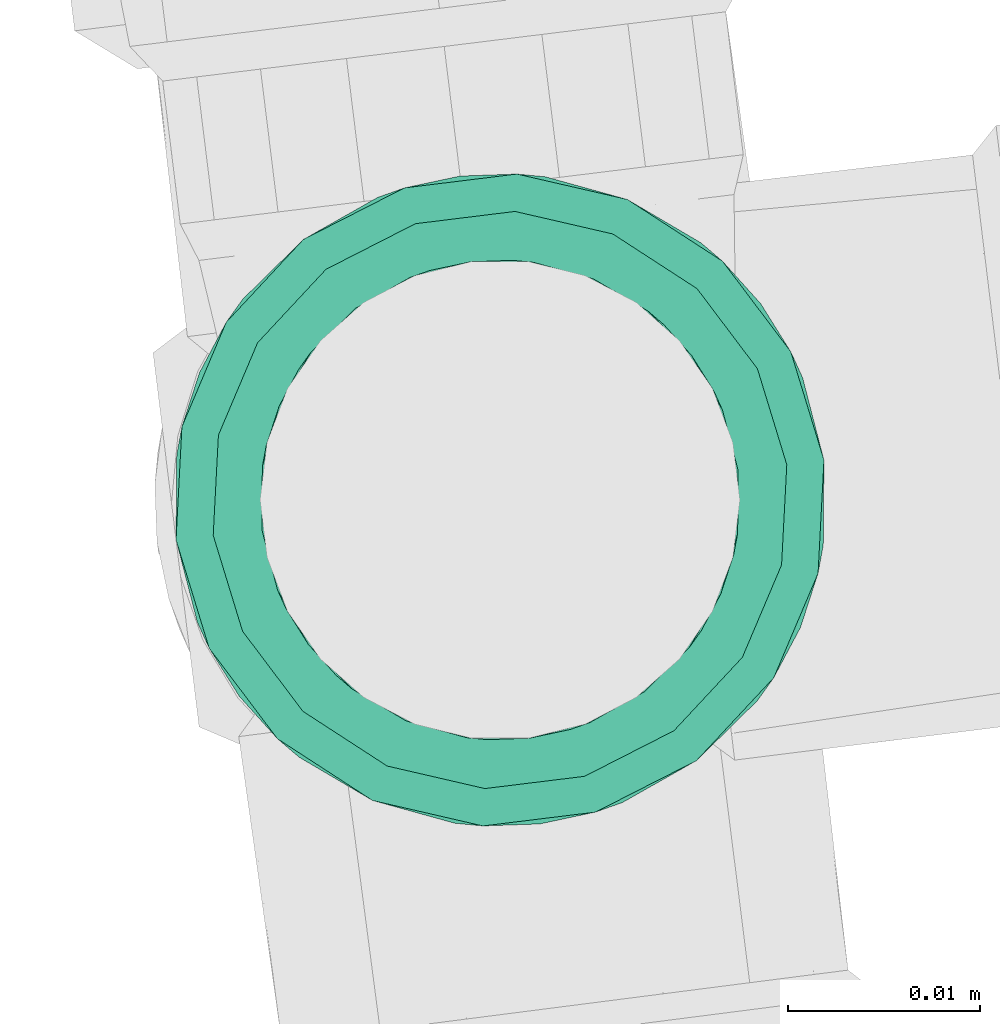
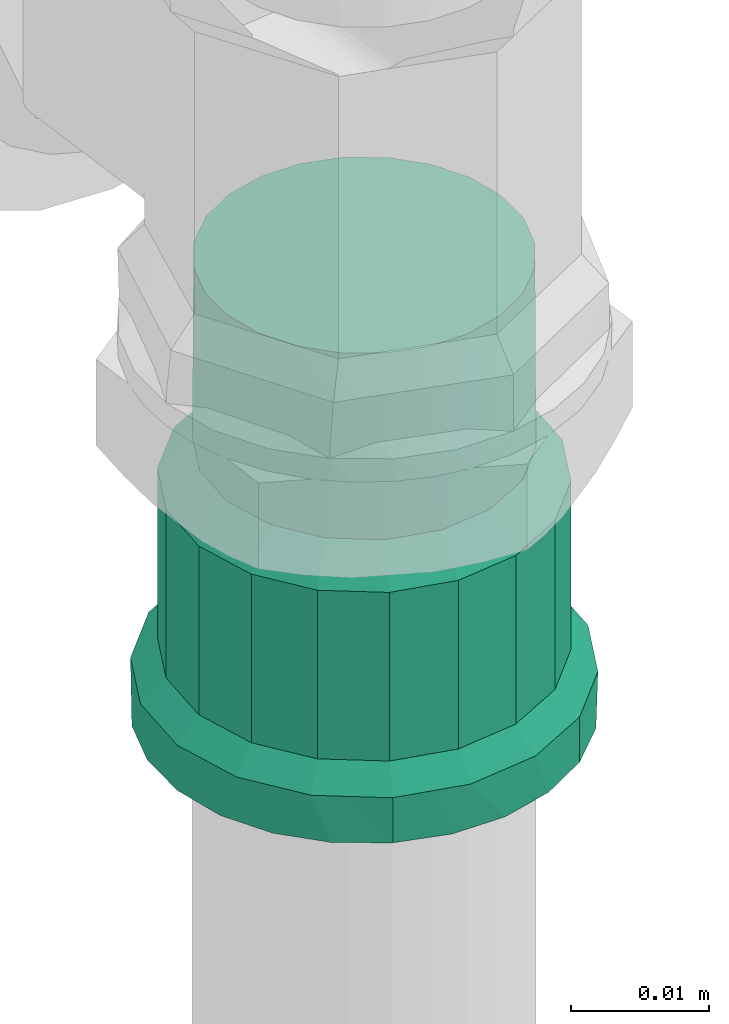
# One storey, part 63 of 97: 1 flow fitting.
"""IFC2X3 building model written with IfcOpenShell, lengths in centimetres."""

from ifc_helpers import new_model, entity, si_unit, converted_unit, derived_unit, direction, frame, origin, place, context, subcontext, project, spatial, faceted_brep, source, transform, mapped, material, type_object, type_shapes, element, save


model = new_model("IFC2X3")

# Units and contexts
model_context = context("Model", 3, precision=0.001, world=origin(), true_north=direction((6.12303176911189e-17, 1.0)))
body_context = subcontext(model_context, "Body", "Model", "MODEL_VIEW")
ifc_project = project(units=[si_unit("LENGTHUNIT", "METRE", prefix="CENTI"), si_unit("AREAUNIT", "SQUARE_METRE"), si_unit("VOLUMEUNIT", "CUBIC_METRE"), converted_unit("PLANEANGLEUNIT", "DEGREE", entity("IfcRatioMeasure", 0.0174532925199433), si_unit("PLANEANGLEUNIT", "RADIAN"), dimensions=[0, 0, 0, 0, 0, 0, 0]), si_unit("MASSUNIT", "GRAM", prefix="KILO"), derived_unit("MASSDENSITYUNIT", [(si_unit("MASSUNIT", "GRAM", prefix="KILO"), 1), (si_unit("LENGTHUNIT", "METRE"), -3)]), derived_unit("MOMENTOFINERTIAUNIT", [(si_unit("LENGTHUNIT", "METRE"), 4)]), si_unit("TIMEUNIT", "SECOND"), si_unit("FREQUENCYUNIT", "HERTZ"), si_unit("THERMODYNAMICTEMPERATUREUNIT", "DEGREE_CELSIUS"), derived_unit("THERMALTRANSMITTANCEUNIT", [(si_unit("MASSUNIT", "GRAM", prefix="KILO"), 1), (si_unit("THERMODYNAMICTEMPERATUREUNIT", "KELVIN"), -1), (si_unit("TIMEUNIT", "SECOND"), -3)]), derived_unit("VOLUMETRICFLOWRATEUNIT", [(si_unit("LENGTHUNIT", "METRE"), 3), (si_unit("TIMEUNIT", "SECOND"), -1)]), si_unit("ELECTRICCURRENTUNIT", "AMPERE"), si_unit("ELECTRICVOLTAGEUNIT", "VOLT"), si_unit("POWERUNIT", "WATT"), si_unit("FORCEUNIT", "NEWTON", prefix="KILO"), si_unit("ILLUMINANCEUNIT", "LUX"), si_unit("LUMINOUSFLUXUNIT", "LUMEN"), si_unit("LUMINOUSINTENSITYUNIT", "CANDELA"), derived_unit("USERDEFINED", [(si_unit("MASSUNIT", "GRAM", prefix="KILO"), -1), (si_unit("LENGTHUNIT", "METRE"), -2), (si_unit("TIMEUNIT", "SECOND"), 3), (si_unit("LUMINOUSFLUXUNIT", "LUMEN"), 1)]), derived_unit("LINEARVELOCITYUNIT", [(si_unit("LENGTHUNIT", "METRE"), 1), (si_unit("TIMEUNIT", "SECOND"), -1)]), si_unit("PRESSUREUNIT", "PASCAL"), derived_unit("USERDEFINED", [(si_unit("LENGTHUNIT", "METRE"), -2), (si_unit("MASSUNIT", "GRAM", prefix="KILO"), 1), (si_unit("TIMEUNIT", "SECOND"), -2)]), derived_unit("LINEARFORCEUNIT", [(si_unit("MASSUNIT", "GRAM", prefix="KILO"), 1), (si_unit("LENGTHUNIT", "METRE"), 1), (si_unit("TIMEUNIT", "SECOND"), -2), (si_unit("LENGTHUNIT", "METRE"), -1)]), derived_unit("PLANARFORCEUNIT", [(si_unit("MASSUNIT", "GRAM", prefix="KILO"), 1), (si_unit("LENGTHUNIT", "METRE"), 1), (si_unit("TIMEUNIT", "SECOND"), -2), (si_unit("LENGTHUNIT", "METRE"), -2)])], contexts=[model_context])

# Site, building, storey
site_placement = place(None, origin())
site = spatial("IfcSite", under=ifc_project, at=site_placement, Name="Default", CompositionType="ELEMENT")
building_placement = place(site_placement, origin())
building = spatial("IfcBuilding", under=site, at=building_placement, Name="HIDROSSANITÁRIO", CompositionType="ELEMENT")
storey_placement = place(building_placement, frame((0.0, 0.0, -260.0)))
storey = spatial("IfcBuildingStorey", under=building, at=storey_placement, Name="TÉRREO-HID", CompositionType="ELEMENT", Elevation=-260.0)

# Flow fitting
ifc_material = material(Name="PVC Marrom")
pipe_fitting_type = type_object("IfcPipeFittingType", Name="PVC Marrom Soldável_Adaptador Curto com Bolsa e Rosca Aninhado:Adaptador", PredefinedType="NOTDEFINED", material=ifc_material)
shared_shape = source(origin(), body_context, "Body", "Brep", [
    faceted_brep([(0.0, -0.850000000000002, -1.47224318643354), (0.0, -1.20208152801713, -1.20208152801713), (0.0, -0.624999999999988, -1.08253175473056), (0.0, -0.323523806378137, -1.20740728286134), (0.0, -0.439992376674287, -1.64207390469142), (0.0, -0.883883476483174, -0.883883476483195), (0.0, -1.47224318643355, -0.849999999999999), (0.0, -1.08253175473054, -0.625000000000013), (0.0, -1.20740728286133, -0.323523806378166), (0.0, -1.64207390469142, -0.439992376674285), (0.0, -1.25, 0.0), (0.0, -1.7, 0.0), (0.0, -1.20740728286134, 0.323523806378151), (0.0, -1.64207390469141, 0.439992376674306), (0.0, -1.08253175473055, 0.625), (0.0, -1.47224318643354, 0.850000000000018), (0.0, -0.883883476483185, 0.883883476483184), (0.0, -1.20208152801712, 1.20208152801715), (0.0, -0.625000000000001, 1.08253175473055), (0.0, -0.849999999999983, 1.47224318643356), (0.0, -0.323523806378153, 1.20740728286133), (0.0, -0.439992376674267, 1.64207390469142), (0.0, 0.0, 1.25), (0.0, 0.0, 1.7), (0.0, 0.323523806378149, 1.20740728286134), (0.0, 0.439992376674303, 1.64207390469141), (0.0, 0.624999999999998, 1.08253175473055), (0.0, 0.850000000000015, 1.47224318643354), (0.0, 0.883883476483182, 0.883883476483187), (0.0, 1.20208152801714, 1.20208152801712), (0.0, 1.08253175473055, 0.625000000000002), (0.0, 1.47224318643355, 0.849999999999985), (0.0, 1.64207390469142, 0.439992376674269), (0.0, 1.20740728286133, 0.323523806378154), (0.0, 1.7, 0.0), (0.0, 1.25, 0.0), (0.0, 1.64207390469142, -0.43999237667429), (0.0, 1.20740728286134, -0.323523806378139), (0.0, 1.47224318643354, -0.850000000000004), (0.0, 1.08253175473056, -0.624999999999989), (0.0, 1.20208152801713, -1.20208152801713), (0.0, 0.883883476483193, -0.883883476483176), (0.0, 0.849999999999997, -1.47224318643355), (0.0, 0.625000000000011, -1.08253175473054), (0.0, 0.439992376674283, -1.64207390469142), (0.0, 0.323523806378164, -1.20740728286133), (0.0, 0.0, -1.7), (0.0, 0.0, -1.25), (0.399999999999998, 1.59746124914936, 0.581478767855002), (0.399999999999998, 1.64873062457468, 0.290739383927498), (0.399999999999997, 1.07604576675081, 1.28256289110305), (0.399999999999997, 1.30221463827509, 1.09281152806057), (0.399999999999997, 1.44983794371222, 0.837145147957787), (0.399999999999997, 0.57244607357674, 1.57326016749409), (0.399999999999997, 0.295015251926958, 1.67420608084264), (0.399999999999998, 1.659968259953, 0.227012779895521), (0.399999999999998, 1.7, 0.0), (0.399999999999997, 0.849876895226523, 1.47231425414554), (0.399999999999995, -0.850246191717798, 1.47210102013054), (0.399999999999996, -0.572840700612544, 1.57311652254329), (0.399999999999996, -0.295435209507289, 1.67413202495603), (0.399999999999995, -1.30248872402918, 1.09248483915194), (0.399999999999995, -1.07636745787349, 1.28229292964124), (0.399999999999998, -1.7, 0.0), (0.399999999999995, -1.5976070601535, 0.581078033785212), (0.399999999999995, -1.45004789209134, 0.836781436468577), (0.399999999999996, -0.000209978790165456, 1.67416905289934), (0.400000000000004, -1.59760706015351, -0.581078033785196), (0.400000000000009, -1.0763674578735, -1.28229292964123), (0.400000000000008, -1.30248872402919, -1.09248483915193), (0.400000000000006, -1.45004789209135, -0.836781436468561), (0.40000000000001, -0.572840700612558, -1.57311652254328), (0.400000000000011, -0.295435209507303, -1.67413202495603), (0.40000000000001, -0.850246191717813, -1.47210102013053), (0.4, 1.64873062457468, -0.290739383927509), (0.400000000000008, 0.849876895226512, -1.47231425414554), (0.400000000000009, 0.572446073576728, -1.57326016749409), (0.40000000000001, 0.295015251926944, -1.67420608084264), (0.400000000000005, 1.30221463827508, -1.09281152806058), (0.400000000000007, 1.0760457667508, -1.28256289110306), (0.400000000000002, 1.59746124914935, -0.581478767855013), (0.400000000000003, 1.44983794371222, -0.837145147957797), (0.40000000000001, -0.000209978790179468, -1.67416905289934), (0.399999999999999, 1.65996825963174, -0.227012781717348), (2.085, 1.45359735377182, 0.29149513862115), (2.085, 1.45961152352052, 0.257389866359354), (2.085, 1.505, 0.0), (0.590000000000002, 1.505, 0.0), (0.590000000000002, 1.45961152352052, 0.257389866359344), (0.590000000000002, 1.41422304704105, 0.514779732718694), (2.085, 1.41422304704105, 0.514779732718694), (2.08499999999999, 0.952616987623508, 1.13544538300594), (2.08499999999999, 1.15284295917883, 0.967459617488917), (0.590000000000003, 1.15284295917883, 0.967459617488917), (0.590000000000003, 0.952616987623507, 1.13544538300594), (0.590000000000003, 0.752391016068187, 1.30343114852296), (2.08499999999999, 0.752391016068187, 1.30343114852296), (2.085, 1.28353300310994, 0.741119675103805), (0.590000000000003, 1.28353300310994, 0.741119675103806), (2.08499999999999, 0.261175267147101, 1.48216479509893), (2.08499999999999, 0.506783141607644, 1.39279797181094), (0.590000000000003, 0.506783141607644, 1.39279797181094), (0.590000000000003, 0.261175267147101, 1.48216479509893), (2.08499999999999, -0.261547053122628, 1.48209923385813), (2.08499999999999, -0.000185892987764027, 1.48213201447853), (0.590000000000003, -0.000185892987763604, 1.48213201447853), (0.590000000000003, -0.261547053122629, 1.48209923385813), (2.08499999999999, -0.507132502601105, 1.39267080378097), (0.590000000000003, -0.507132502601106, 1.39267080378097), (0.590000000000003, -0.752717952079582, 1.3032423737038), (2.08499999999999, -0.75271795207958, 1.3032423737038), (0.590000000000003, -0.952901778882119, 1.1352063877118), (0.590000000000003, -1.15308560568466, 0.967170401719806), (2.08499999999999, -1.15308560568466, 0.967170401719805), (2.08499999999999, -0.952901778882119, 1.1352063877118), (2.085, -1.28371886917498, 0.740797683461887), (0.590000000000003, -1.28371886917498, 0.740797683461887), (0.590000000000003, -1.4143521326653, 0.514424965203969), (2.085, -1.4143521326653, 0.514424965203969), (0.590000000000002, -1.505, 0.0), (2.085, -1.505, 0.0), (2.08500000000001, -1.41435213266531, -0.514424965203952), (0.590000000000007, -1.41435213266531, -0.514424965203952), (2.08500000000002, -0.752717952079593, -1.3032423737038), (2.08500000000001, -0.95290177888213, -1.13520638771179), (2.08500000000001, -1.15308560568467, -0.967170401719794), (0.59000000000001, -1.15308560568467, -0.967170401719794), (0.590000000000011, -0.95290177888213, -1.13520638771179), (0.590000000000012, -0.752717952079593, -1.3032423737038), (0.590000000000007, 1.28353300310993, -0.741119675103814), (0.590000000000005, 1.41422304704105, -0.514779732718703), (2.08500000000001, 1.41422304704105, -0.514779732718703), (2.08500000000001, 1.28353300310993, -0.741119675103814), (2.08500000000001, 1.15284295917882, -0.967459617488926), (0.590000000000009, 1.15284295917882, -0.967459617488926), (0.590000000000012, 0.506783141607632, -1.39279797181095), (0.590000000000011, 0.752391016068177, -1.30343114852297), (2.08500000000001, 0.752391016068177, -1.30343114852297), (2.08500000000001, 0.506783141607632, -1.39279797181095), (2.08500000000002, 0.261175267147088, -1.48216479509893), (0.590000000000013, 0.261175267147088, -1.48216479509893), (2.08500000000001, -1.28371886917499, -0.740797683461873), (0.590000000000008, -1.28371886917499, -0.740797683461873), (2.08500000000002, -0.261547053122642, -1.48209923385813), (2.08500000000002, -0.507132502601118, -1.39267080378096), (0.590000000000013, -0.507132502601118, -1.39267080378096), (0.590000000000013, -0.261547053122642, -1.48209923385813), (0.590000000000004, 1.45961152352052, -0.257389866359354), (2.085, 1.46677519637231, -0.216765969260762), (2.085, 1.45359734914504, -0.291495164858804), (0.59000000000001, 0.952616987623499, -1.13544538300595), (2.08500000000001, 0.952616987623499, -1.13544538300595), (2.08500000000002, -0.000185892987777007, -1.48213201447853), (0.590000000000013, -0.000185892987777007, -1.48213201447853), (4.03, 0.0, -1.25), (4.03, 0.323523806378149, -1.20740728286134), (4.03, 0.624999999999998, -1.08253175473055), (4.03, 0.883883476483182, -0.883883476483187), (4.03, 1.08253175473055, -0.625000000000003), (4.03, 1.20740728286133, -0.323523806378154), (4.03, 1.25, 0.0), (4.03, 1.20740728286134, 0.323523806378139), (4.03, 1.08253175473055, 0.624999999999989), (4.03, 0.883883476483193, 0.883883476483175), (4.03, 0.625000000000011, 1.08253175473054), (4.03, 0.323523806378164, 1.20740728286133), (4.03, 0.0, 1.25), (4.03, -0.323523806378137, 1.20740728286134), (4.03, -0.624999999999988, 1.08253175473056), (4.03, -0.883883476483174, 0.883883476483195), (4.03, -1.08253175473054, 0.625000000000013), (4.03, -1.20740728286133, 0.323523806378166), (4.03, -1.25, 0.0), (4.03, -1.20740728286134, -0.323523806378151), (4.03, -1.08253175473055, -0.624999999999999), (4.03, -0.883883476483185, -0.883883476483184), (4.03, -0.625000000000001, -1.08253175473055), (4.03, -0.323523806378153, -1.20740728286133), (2.375, 1.25, 0.0), (2.37499999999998, 0.957510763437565, 0.803537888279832), (2.37499999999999, 1.17460385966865, 0.427557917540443), (2.37499999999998, 0.624909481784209, 1.08258401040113), (2.37499999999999, 1.06605731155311, 0.615547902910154), (2.375, 1.21825182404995, 0.180038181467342), (2.37499999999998, 0.420916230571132, 1.15680894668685), (2.37499999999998, 0.216922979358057, 1.23103388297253), (2.37499999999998, 0.791210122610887, 0.943060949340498), (2.37499999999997, -0.217231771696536, 1.23097943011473), (2.37499999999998, -0.625181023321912, 1.08242722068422), (2.37499999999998, -0.957712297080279, 0.803297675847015), (2.37499999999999, -1.17471107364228, 0.427263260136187), (2.37499999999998, -0.791446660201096, 0.94286244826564), (2.37499999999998, -0.421206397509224, 1.1567033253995), (2.375, -1.25, 0.0), (2.37499999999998, -1.06621168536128, 0.615280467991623), (2.37499999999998, -0.000154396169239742, 1.23100665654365), (2.37500000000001, -0.957712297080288, -0.803297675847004), (2.375, -1.17471107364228, -0.427263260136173), (2.37500000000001, -0.625181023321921, -1.08242722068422), (2.37500000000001, -1.06621168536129, -0.615280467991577), (2.37500000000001, -0.421206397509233, -1.15670332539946), (2.37500000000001, -0.217231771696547, -1.23097943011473), (2.37500000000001, -0.791446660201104, -0.942862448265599), (2.37500000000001, 0.216922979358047, -1.23103388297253), (2.37500000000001, 0.6249094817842, -1.08258401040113), (2.375, 0.957510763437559, -0.803537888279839), (2.375, 1.17460385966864, -0.427557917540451), (2.37500000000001, 0.79121012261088, -0.943060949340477), (2.37500000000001, 0.420916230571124, -1.15680894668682), (2.375, 1.21230192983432, -0.213778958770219), (2.375, 1.0660573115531, -0.615547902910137), (2.37500000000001, -0.00015439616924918, -1.23100665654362), (0.590000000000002, 1.20740728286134, -0.323523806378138), (2.085, 1.20740728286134, -0.323523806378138), (2.085, 1.25, 0.0), (0.590000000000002, 1.25, 0.0), (0.399999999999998, 1.25, 0.0), (0.399999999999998, 1.20740728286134, -0.323523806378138), (0.590000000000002, 1.08253175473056, -0.624999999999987), (2.085, 1.08253175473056, -0.624999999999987), (0.399999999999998, 1.08253175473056, -0.624999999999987), (2.085, 0.625000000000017, -1.08253175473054), (2.085, 0.883883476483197, -0.883883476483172), (0.590000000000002, 0.883883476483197, -0.883883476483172), (0.399999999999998, 0.883883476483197, -0.883883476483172), (0.399999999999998, 0.625000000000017, -1.08253175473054), (0.590000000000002, 0.625000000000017, -1.08253175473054), (2.085, 0.32352380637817, -1.20740728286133), (0.399999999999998, 0.32352380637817, -1.20740728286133), (0.590000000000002, 0.32352380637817, -1.20740728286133), (2.085, 0.0, -1.25), (0.399999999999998, 0.0, -1.25), (0.590000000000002, 0.0, -1.25), (0.590000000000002, -0.323523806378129, -1.20740728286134), (2.085, -0.323523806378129, -1.20740728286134), (0.399999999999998, -0.323523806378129, -1.20740728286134), (0.590000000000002, -0.624999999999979, -1.08253175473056), (2.085, -0.624999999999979, -1.08253175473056), (0.399999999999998, -0.624999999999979, -1.08253175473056), (2.085, -1.08253175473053, -0.625000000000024), (2.085, -0.883883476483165, -0.883883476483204), (0.590000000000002, -0.883883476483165, -0.883883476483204), (0.399999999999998, -0.883883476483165, -0.883883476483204), (0.399999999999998, -1.08253175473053, -0.625000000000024), (0.590000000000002, -1.08253175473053, -0.625000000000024), (2.085, -1.20740728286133, -0.323523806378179), (0.399999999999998, -1.20740728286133, -0.323523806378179), (0.590000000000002, -1.20740728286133, -0.323523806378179), (2.085, -1.25, 0.0), (0.399999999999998, -1.25, 0.0), (0.590000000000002, -1.25, 0.0), (0.590000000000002, -1.20740728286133, 0.323523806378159), (2.085, -1.20740728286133, 0.323523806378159), (0.399999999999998, -1.20740728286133, 0.323523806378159), (0.590000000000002, -1.08253175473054, 0.625000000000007), (2.085, -1.08253175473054, 0.625000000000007), (0.399999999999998, -1.08253175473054, 0.625000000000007), (2.085, -0.624999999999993, 1.08253175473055), (2.085, -0.883883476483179, 0.88388347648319), (0.590000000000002, -0.883883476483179, 0.88388347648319), (0.399999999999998, -0.883883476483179, 0.88388347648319), (0.399999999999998, -0.624999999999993, 1.08253175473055), (0.590000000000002, -0.624999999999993, 1.08253175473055), (2.085, -0.323523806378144, 1.20740728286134), (0.399999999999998, -0.323523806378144, 1.20740728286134), (0.590000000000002, -0.323523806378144, 1.20740728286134), (2.085, 0.0, 1.25), (0.399999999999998, 0.0, 1.25), (0.590000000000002, 0.0, 1.25), (0.590000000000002, 0.323523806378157, 1.20740728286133), (2.085, 0.323523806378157, 1.20740728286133), (0.399999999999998, 0.323523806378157, 1.20740728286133), (0.590000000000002, 0.625000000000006, 1.08253175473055), (2.085, 0.625000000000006, 1.08253175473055), (0.399999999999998, 0.625000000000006, 1.08253175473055), (2.085, 1.08253175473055, 0.624999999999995), (2.085, 0.883883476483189, 0.88388347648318), (0.590000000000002, 0.883883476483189, 0.88388347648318), (0.399999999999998, 0.883883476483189, 0.88388347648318), (0.399999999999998, 1.08253175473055, 0.624999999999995), (0.590000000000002, 1.08253175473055, 0.624999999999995), (2.085, 1.20740728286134, 0.323523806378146), (0.399999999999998, 1.20740728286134, 0.323523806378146), (0.590000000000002, 1.20740728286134, 0.323523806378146)], [[[0, 1, 2]], [[0, 2, 3]], [[3, 4, 0]], [[2, 1, 5]], [[6, 5, 1]], [[7, 5, 6]], [[8, 7, 6]], [[8, 6, 9]], [[8, 9, 10]], [[10, 9, 11]], [[12, 10, 11]], [[12, 11, 13]], [[14, 12, 13]], [[14, 13, 15]], [[16, 14, 15]], [[15, 17, 16]], [[17, 18, 16]], [[18, 17, 19]], [[18, 19, 20]], [[21, 20, 19]], [[20, 21, 22]], [[22, 21, 23]], [[23, 24, 22]], [[24, 23, 25]], [[24, 25, 26]], [[27, 26, 25]], [[27, 28, 26]], [[27, 29, 28]], [[30, 28, 29]], [[31, 30, 29]], [[32, 30, 31]], [[33, 30, 32]], [[33, 32, 34]], [[34, 35, 33]], [[36, 35, 34]], [[36, 37, 35]], [[37, 36, 38]], [[39, 37, 38]], [[39, 38, 40]], [[39, 40, 41]], [[40, 42, 41]], [[41, 42, 43]], [[43, 42, 44]], [[44, 45, 43]], [[46, 45, 44]], [[4, 47, 46]], [[45, 46, 47]], [[4, 3, 47]], [[32, 48, 49]], [[50, 51, 29]], [[52, 48, 31, 51]], [[53, 25, 54]], [[48, 32, 31]], [[34, 49, 55, 56]], [[27, 57, 50]], [[29, 27, 50]], [[29, 51, 31]], [[19, 58, 59]], [[21, 19, 59]], [[53, 57, 27]], [[25, 53, 27]], [[54, 25, 23]], [[32, 49, 34]], [[59, 60, 21]], [[61, 62, 17]], [[63, 64, 13]], [[65, 61, 15, 64]], [[11, 63, 13]], [[17, 62, 19]], [[66, 54, 23, 60]], [[21, 60, 23]], [[61, 17, 15]], [[19, 62, 58]], [[13, 64, 15]], [[67, 63, 9]], [[68, 69, 1]], [[70, 67, 6, 69]], [[71, 4, 72]], [[67, 9, 6]], [[63, 11, 9]], [[4, 71, 0]], [[0, 73, 68]], [[1, 69, 6]], [[36, 34, 74]], [[42, 75, 76]], [[71, 73, 0]], [[44, 42, 76]], [[72, 4, 46]], [[1, 0, 68]], [[76, 77, 44]], [[78, 79, 40]], [[74, 80, 36]], [[81, 78, 38, 80]], [[36, 80, 38]], [[40, 79, 42]], [[82, 72, 46, 77]], [[44, 77, 46]], [[78, 40, 38]], [[42, 79, 75]], [[34, 56, 83, 74]], [[84, 85, 86, 87, 88, 89, 90]], [[91, 92, 93, 94, 95, 96]], [[92, 97, 90, 89, 98, 93]], [[99, 100, 96, 95, 101, 102]], [[103, 104, 99, 102, 105, 106]], [[107, 103, 106, 108, 109, 110]], [[111, 112, 113, 114, 110, 109]], [[115, 113, 112, 116, 117, 118]], [[117, 119, 120, 118]], [[121, 120, 119, 122]], [[123, 124, 125, 126, 127, 128]], [[129, 130, 131, 132, 133, 134]], [[135, 136, 137, 138, 139, 140]], [[125, 141, 121, 122, 142, 126]], [[143, 144, 123, 128, 145, 146]], [[131, 130, 147, 87, 86, 148, 149]], [[150, 134, 133, 151, 137, 136]], [[139, 152, 143, 146, 153, 140]], [[154, 155, 156, 157, 158, 159, 160, 161, 162, 163, 164, 165, 166, 167, 168, 169, 170, 171, 172, 173, 174, 175, 176, 177]], [[161, 160, 178]], [[163, 162, 179]], [[180, 162, 161]], [[181, 164, 163]], [[162, 180, 182, 179]], [[161, 178, 183, 180]], [[165, 181, 184, 185]], [[163, 179, 186, 181]], [[166, 165, 185]], [[165, 164, 181]], [[166, 187, 167]], [[167, 188, 168]], [[170, 169, 189]], [[188, 169, 168]], [[171, 170, 190]], [[169, 188, 191, 189]], [[167, 187, 192, 188]], [[190, 193, 171]], [[170, 189, 194, 190]], [[193, 172, 171]], [[166, 185, 195, 187]], [[173, 172, 193]], [[175, 174, 196]], [[197, 174, 173]], [[198, 176, 175]], [[174, 197, 199, 196]], [[173, 193, 197]], [[177, 198, 200, 201]], [[175, 196, 202, 198]], [[154, 177, 201]], [[177, 176, 198]], [[154, 203, 155]], [[155, 204, 156]], [[158, 157, 205]], [[204, 157, 156]], [[159, 158, 206]], [[157, 204, 207, 205]], [[155, 203, 208, 204]], [[159, 206, 209, 178]], [[158, 205, 210, 206]], [[178, 160, 159]], [[154, 201, 211, 203]], [[212, 213, 214, 215, 216, 35, 37, 217]], [[218, 219, 213, 212, 217, 37, 39, 220]], [[221, 222, 223, 224, 41, 43, 225, 226]], [[218, 220, 39, 41, 224, 223, 222, 219]], [[227, 221, 226, 225, 43, 45, 228, 229]], [[230, 227, 229, 228, 45, 47, 231, 232]], [[233, 234, 230, 232, 231, 47, 3, 235]], [[236, 237, 234, 233, 235, 3, 2, 238]], [[239, 240, 241, 242, 5, 7, 243, 244]], [[236, 238, 2, 5, 242, 241, 240, 237]], [[245, 239, 244, 243, 7, 8, 246, 247]], [[248, 245, 247, 246, 8, 10, 249, 250]], [[251, 252, 248, 250, 249, 10, 12, 253]], [[254, 255, 252, 251, 253, 12, 14, 256]], [[257, 258, 259, 260, 16, 18, 261, 262]], [[254, 256, 14, 16, 260, 259, 258, 255]], [[263, 257, 262, 261, 18, 20, 264, 265]], [[266, 263, 265, 264, 20, 22, 267, 268]], [[269, 270, 266, 268, 267, 22, 24, 271]], [[272, 273, 270, 269, 271, 24, 26, 274]], [[275, 276, 277, 278, 28, 30, 279, 280]], [[272, 274, 26, 28, 278, 277, 276, 273]], [[281, 275, 280, 279, 30, 33, 282, 283]], [[214, 281, 283, 282, 33, 35, 216, 215]], [[63, 67, 122, 119]], [[145, 128, 73, 71, 72, 146]], [[68, 73, 128, 127, 126, 69]], [[126, 142, 122, 67, 70, 69]], [[76, 75, 136, 135, 140, 77]], [[81, 80, 130, 129, 134, 78]], [[147, 130, 80, 74, 83, 56, 87]], [[140, 153, 146, 72, 82, 77]], [[134, 150, 136, 75, 79, 78]], [[89, 88, 87, 56, 55, 49, 48]], [[98, 89, 48, 52, 51, 93]], [[94, 93, 51, 50, 57, 95]], [[57, 53, 54, 102, 101, 95]], [[66, 60, 106, 105, 102, 54]], [[58, 109, 108, 106, 60, 59]], [[63, 119, 117, 64]], [[61, 65, 64, 117, 116, 112]], [[58, 62, 61, 112, 111, 109]], [[227, 230, 234, 237, 240, 239, 245, 248, 252, 255, 258, 257, 263, 266, 270, 273, 276, 275, 281, 214, 213, 219, 222, 221]], [[180, 183, 178, 86, 85, 84, 90]], [[100, 99, 185, 184, 181, 96]], [[181, 186, 179, 92, 91, 96]], [[179, 182, 180, 90, 97, 92]], [[104, 103, 187, 195, 185, 99]], [[115, 118, 190, 194, 189, 113]], [[107, 110, 188, 192, 187, 103]], [[118, 120, 193, 190]], [[189, 191, 188, 110, 114, 113]], [[120, 121, 197, 193]], [[200, 198, 123, 144, 143, 201]], [[124, 123, 198, 202, 196, 125]], [[196, 199, 197, 121, 141, 125]], [[138, 137, 204, 208, 203, 139]], [[132, 131, 206, 210, 205, 133]], [[209, 206, 131, 149, 148, 86, 178]], [[203, 211, 201, 143, 152, 139]], [[205, 207, 204, 137, 151, 133]]]),
])
type_shapes(pipe_fitting_type, [shared_shape])
flow_fitting_placement = place(storey_placement, frame((-1799.22604085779, 2883.95602249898, 174.525000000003), z_axis=(-0.122152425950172, 0.992511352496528, 0.0), x_axis=(0.0, 0.0, 1.0)))
element("IfcFlowFitting", 1, at=flow_fitting_placement, inside=storey, type_object=pipe_fitting_type, material=ifc_material, Name="PVC Marrom Soldável_Adaptador Curto com Bolsa e Rosca Aninhado:Adaptador", ObjectType="PVC Marrom Soldável_Adaptador Curto com Bolsa e Rosca Aninhado:Adaptador", context=body_context, shape_type="MappedRepresentation", body=[
    mapped(shared_shape, transform((0.0, 0.0, 0.0), scale=1.0)),
])

save(model, "model.ifc")
